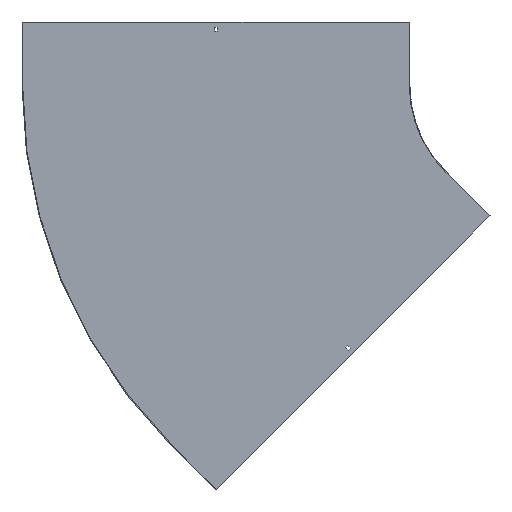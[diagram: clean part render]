
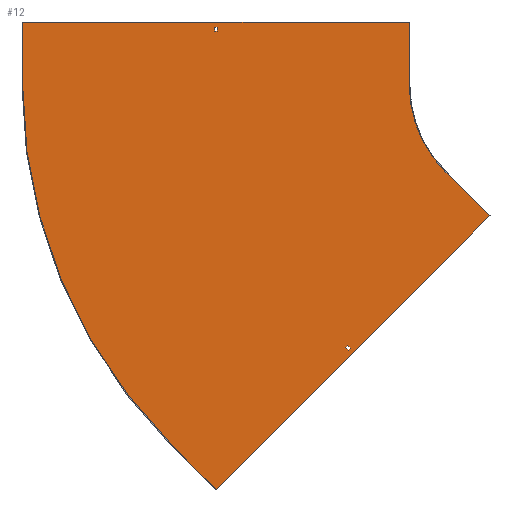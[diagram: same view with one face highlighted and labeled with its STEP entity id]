
A CAD part, front view. The second image highlights one B-rep face of the part: STEP entity #12.
In plain terms, the highlighted planar face has unit normal (0, -1, 0).
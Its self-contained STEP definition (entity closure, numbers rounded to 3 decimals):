
#6 = CARTESIAN_POINT ( 'NONE',  ( -430.451, -1.5, -625.613 ) ) ;
#12 = ADVANCED_FACE ( 'NONE', ( #331, #204, #407 ), #738, .T. ) ;
#23 = CARTESIAN_POINT ( 'NONE',  ( -532.628, -1.5, -532.628 ) ) ;
#26 = CARTESIAN_POINT ( 'NONE',  ( -290., -1.5, 150. ) ) ;
#41 = VERTEX_POINT ( 'NONE', #6 ) ;
#46 = EDGE_CURVE ( 'NONE', #634, #123, #722, .T. ) ;
#52 = CARTESIAN_POINT ( 'NONE',  ( -1210., -1.5, 0. ) ) ;
#57 = LINE ( 'NONE', #589, #538 ) ;
#67 = CARTESIAN_POINT ( 'NONE',  ( 91.217, -1.5, -91.217 ) ) ;
#69 = EDGE_CURVE ( 'NONE', #433, #130, #153, .T. ) ;
#71 = VERTEX_POINT ( 'NONE', #105 ) ;
#76 = VERTEX_POINT ( 'NONE', #501 ) ;
#83 = CARTESIAN_POINT ( 'NONE',  ( 0., -1.5, 0. ) ) ;
#105 = CARTESIAN_POINT ( 'NONE',  ( -435.047, -1.5, -630.209 ) ) ;
#117 = ORIENTED_EDGE ( 'NONE', *, *, #763, .F. ) ;
#121 = ORIENTED_EDGE ( 'NONE', *, *, #69, .T. ) ;
#122 = LINE ( 'NONE', #647, #751 ) ;
#123 = VERTEX_POINT ( 'NONE', #434 ) ;
#125 = EDGE_CURVE ( 'NONE', #350, #71, #766, .T. ) ;
#130 = VERTEX_POINT ( 'NONE', #565 ) ;
#141 = VECTOR ( 'NONE', #368, 1000. ) ;
#147 = EDGE_LOOP ( 'NONE', ( #202, #169, #117, #661, #730, #660, #691, #379 ) ) ;
#151 = CARTESIAN_POINT ( 'NONE',  ( 97.581, -1.5, -97.581 ) ) ;
#153 = LINE ( 'NONE', #289, #225 ) ;
#168 = CARTESIAN_POINT ( 'NONE',  ( -1210., -1.5, 150. ) ) ;
#169 = ORIENTED_EDGE ( 'NONE', *, *, #743, .F. ) ;
#174 = DIRECTION ( 'NONE',  ( 0.707, 0., -0.707 ) ) ;
#194 = LINE ( 'NONE', #67, #801 ) ;
#202 = ORIENTED_EDGE ( 'NONE', *, *, #708, .F. ) ;
#204 = FACE_OUTER_BOUND ( 'NONE', #147, .T. ) ;
#225 = VECTOR ( 'NONE', #297, 1000. ) ;
#226 = CARTESIAN_POINT ( 'NONE',  ( -749.533, -1.5, -961.665 ) ) ;
#227 = LINE ( 'NONE', #814, #558 ) ;
#238 = EDGE_CURVE ( 'NONE', #130, #76, #122, .T. ) ;
#239 = CARTESIAN_POINT ( 'NONE',  ( -1211.5, -1.5, 150. ) ) ;
#240 = AXIS2_PLACEMENT_3D ( 'NONE', #754, #796, #798 ) ;
#246 = EDGE_CURVE ( 'NONE', #494, #433, #57, .T. ) ;
#247 = LINE ( 'NONE', #460, #710 ) ;
#252 = DIRECTION ( 'NONE',  ( -1., 0., 0. ) ) ;
#256 = DIRECTION ( 'NONE',  ( -0.707, 0., 0.707 ) ) ;
#257 = LINE ( 'NONE', #309, #629 ) ;
#273 = DIRECTION ( 'NONE',  ( 0., -1., 0. ) ) ;
#282 = EDGE_CURVE ( 'NONE', #123, #733, #619, .T. ) ;
#289 = CARTESIAN_POINT ( 'NONE',  ( 0., -1.5, 138. ) ) ;
#297 = DIRECTION ( 'NONE',  ( 1., 0., 0. ) ) ;
#308 = EDGE_CURVE ( 'NONE', #733, #602, #227, .T. ) ;
#309 = CARTESIAN_POINT ( 'NONE',  ( -749.533, -1.5, -961.665 ) ) ;
#310 = ORIENTED_EDGE ( 'NONE', *, *, #246, .T. ) ;
#322 = CARTESIAN_POINT ( 'NONE',  ( -290., -1.5, 150. ) ) ;
#331 = FACE_BOUND ( 'NONE', #765, .T. ) ;
#334 = EDGE_CURVE ( 'NONE', #533, #634, #608, .T. ) ;
#343 = EDGE_CURVE ( 'NONE', #71, #41, #625, .T. ) ;
#348 = CARTESIAN_POINT ( 'NONE',  ( -205.061, -1.5, -205.061 ) ) ;
#349 = VECTOR ( 'NONE', #256, 1000. ) ;
#350 = VERTEX_POINT ( 'NONE', #672 ) ;
#358 = DIRECTION ( 'NONE',  ( -0.707, 0., -0.707 ) ) ;
#361 = CARTESIAN_POINT ( 'NONE',  ( 0., -1.5, 0. ) ) ;
#368 = DIRECTION ( 'NONE',  ( 0., 0., 1. ) ) ;
#375 = LINE ( 'NONE', #427, #141 ) ;
#379 = ORIENTED_EDGE ( 'NONE', *, *, #334, .F. ) ;
#382 = VERTEX_POINT ( 'NONE', #168 ) ;
#384 = VERTEX_POINT ( 'NONE', #479 ) ;
#392 = VECTOR ( 'NONE', #742, 1000. ) ;
#407 = FACE_BOUND ( 'NONE', #706, .T. ) ;
#421 = DIRECTION ( 'NONE',  ( -0.707, 0., -0.707 ) ) ;
#422 = CIRCLE ( 'NONE', #530, 1210. ) ;
#427 = CARTESIAN_POINT ( 'NONE',  ( -1210., -1.5, 0. ) ) ;
#433 = VERTEX_POINT ( 'NONE', #687 ) ;
#434 = CARTESIAN_POINT ( 'NONE',  ( -205.061, -1.5, -205.061 ) ) ;
#448 = CARTESIAN_POINT ( 'NONE',  ( -753.25, -1.5, 129. ) ) ;
#460 = CARTESIAN_POINT ( 'NONE',  ( 0., -1.5, 129. ) ) ;
#463 = VECTOR ( 'NONE', #561, 1000. ) ;
#465 = EDGE_CURVE ( 'NONE', #76, #494, #247, .T. ) ;
#475 = ORIENTED_EDGE ( 'NONE', *, *, #465, .T. ) ;
#479 = CARTESIAN_POINT ( 'NONE',  ( -855.599, -1.5, -855.599 ) ) ;
#487 = VECTOR ( 'NONE', #748, 1000. ) ;
#494 = VERTEX_POINT ( 'NONE', #448 ) ;
#498 = CARTESIAN_POINT ( 'NONE',  ( -98.995, -1.5, -311.127 ) ) ;
#501 = CARTESIAN_POINT ( 'NONE',  ( -746.75, -1.5, 129. ) ) ;
#506 = DIRECTION ( 'NONE',  ( 0., 0., -1. ) ) ;
#512 = DIRECTION ( 'NONE',  ( 0., 0., -1. ) ) ;
#517 = ORIENTED_EDGE ( 'NONE', *, *, #655, .F. ) ;
#525 = CARTESIAN_POINT ( 'NONE',  ( -528.032, -1.5, -528.032 ) ) ;
#530 = AXIS2_PLACEMENT_3D ( 'NONE', #361, #559, #506 ) ;
#533 = VERTEX_POINT ( 'NONE', #322 ) ;
#537 = ORIENTED_EDGE ( 'NONE', *, *, #343, .F. ) ;
#538 = VECTOR ( 'NONE', #852, 1000. ) ;
#539 = EDGE_CURVE ( 'NONE', #602, #384, #257, .T. ) ;
#548 = CARTESIAN_POINT ( 'NONE',  ( -290., -1.5, 0. ) ) ;
#550 = VERTEX_POINT ( 'NONE', #716 ) ;
#558 = VECTOR ( 'NONE', #358, 1000. ) ;
#559 = DIRECTION ( 'NONE',  ( 0., 1., 0. ) ) ;
#561 = DIRECTION ( 'NONE',  ( 1., 0., 0. ) ) ;
#564 = VERTEX_POINT ( 'NONE', #52 ) ;
#565 = CARTESIAN_POINT ( 'NONE',  ( -746.75, -1.5, 138. ) ) ;
#589 = CARTESIAN_POINT ( 'NONE',  ( -753.25, -1.5, 0. ) ) ;
#602 = VERTEX_POINT ( 'NONE', #226 ) ;
#608 = LINE ( 'NONE', #26, #732 ) ;
#619 = LINE ( 'NONE', #348, #392 ) ;
#625 = LINE ( 'NONE', #151, #487 ) ;
#629 = VECTOR ( 'NONE', #645, 1000. ) ;
#634 = VERTEX_POINT ( 'NONE', #548 ) ;
#645 = DIRECTION ( 'NONE',  ( -0.707, 0., 0.707 ) ) ;
#647 = CARTESIAN_POINT ( 'NONE',  ( -746.75, -1.5, 0. ) ) ;
#655 = EDGE_CURVE ( 'NONE', #550, #350, #194, .T. ) ;
#660 = ORIENTED_EDGE ( 'NONE', *, *, #282, .F. ) ;
#661 = ORIENTED_EDGE ( 'NONE', *, *, #539, .F. ) ;
#672 = CARTESIAN_POINT ( 'NONE',  ( -441.411, -1.5, -623.845 ) ) ;
#687 = CARTESIAN_POINT ( 'NONE',  ( -753.25, -1.5, 138. ) ) ;
#689 = DIRECTION ( 'NONE',  ( 0., 0., -1. ) ) ;
#691 = ORIENTED_EDGE ( 'NONE', *, *, #46, .F. ) ;
#706 = EDGE_LOOP ( 'NONE', ( #121, #824, #475, #310 ) ) ;
#708 = EDGE_CURVE ( 'NONE', #382, #533, #828, .T. ) ;
#710 = VECTOR ( 'NONE', #252, 1000. ) ;
#715 = LINE ( 'NONE', #525, #349 ) ;
#716 = CARTESIAN_POINT ( 'NONE',  ( -436.815, -1.5, -619.249 ) ) ;
#720 = ORIENTED_EDGE ( 'NONE', *, *, #125, .F. ) ;
#722 = CIRCLE ( 'NONE', #835, 290. ) ;
#730 = ORIENTED_EDGE ( 'NONE', *, *, #308, .F. ) ;
#732 = VECTOR ( 'NONE', #689, 1000. ) ;
#733 = VERTEX_POINT ( 'NONE', #498 ) ;
#738 = PLANE ( 'NONE',  #240 ) ;
#742 = DIRECTION ( 'NONE',  ( 0.707, 0., -0.707 ) ) ;
#743 = EDGE_CURVE ( 'NONE', #564, #382, #375, .T. ) ;
#748 = DIRECTION ( 'NONE',  ( 0.707, 0., 0.707 ) ) ;
#751 = VECTOR ( 'NONE', #512, 1000. ) ;
#754 = CARTESIAN_POINT ( 'NONE',  ( 0., -1.5, 0. ) ) ;
#763 = EDGE_CURVE ( 'NONE', #384, #564, #422, .T. ) ;
#765 = EDGE_LOOP ( 'NONE', ( #782, #537, #720, #517 ) ) ;
#766 = LINE ( 'NONE', #23, #789 ) ;
#782 = ORIENTED_EDGE ( 'NONE', *, *, #843, .F. ) ;
#789 = VECTOR ( 'NONE', #174, 1000. ) ;
#796 = DIRECTION ( 'NONE',  ( 0., -1., 0. ) ) ;
#798 = DIRECTION ( 'NONE',  ( 0., 0., -1. ) ) ;
#801 = VECTOR ( 'NONE', #421, 1000. ) ;
#810 = DIRECTION ( 'NONE',  ( 0., 0., -1. ) ) ;
#814 = CARTESIAN_POINT ( 'NONE',  ( -97.934, -1.5, -310.066 ) ) ;
#824 = ORIENTED_EDGE ( 'NONE', *, *, #238, .T. ) ;
#828 = LINE ( 'NONE', #239, #463 ) ;
#835 = AXIS2_PLACEMENT_3D ( 'NONE', #83, #273, #810 ) ;
#843 = EDGE_CURVE ( 'NONE', #41, #550, #715, .T. ) ;
#852 = DIRECTION ( 'NONE',  ( 0., 0., 1. ) ) ;
